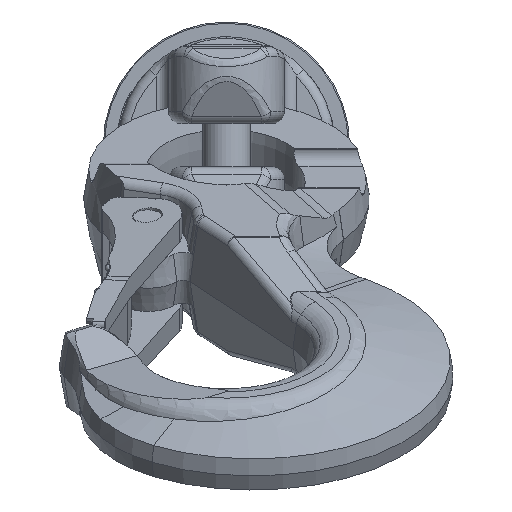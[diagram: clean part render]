
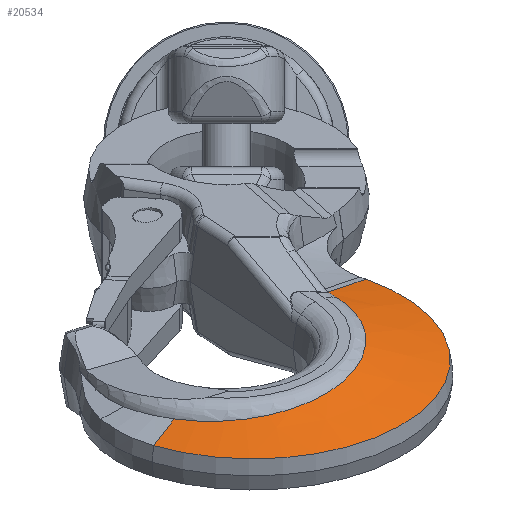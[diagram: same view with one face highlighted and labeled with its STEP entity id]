
A CAD part, left-side view. The second image highlights one B-rep face of the part: STEP entity #20534.
In plain terms, the highlighted conical face has half-angle 76 degrees and reference radius 63.001 mm.
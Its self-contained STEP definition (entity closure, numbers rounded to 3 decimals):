
#16895=CARTESIAN_POINT('',(-21.194,11.44,
55.898));
#16896=CARTESIAN_POINT('',(-19.086,11.541,
56.658));
#16897=CARTESIAN_POINT('',(-14.776,11.747,
57.937));
#16898=CARTESIAN_POINT('',(-8.146,12.072,
59.096));
#16899=CARTESIAN_POINT('',(-1.4,12.411,
59.48));
#16900=CARTESIAN_POINT('',(5.292,12.757,59.079));
#16901=CARTESIAN_POINT('',(11.852,13.107,57.916));
#16902=CARTESIAN_POINT('',(18.228,13.459,56.008));
#16903=CARTESIAN_POINT('',(24.366,13.811,53.36));
#16904=CARTESIAN_POINT('',(30.124,14.153,50.036));
#16905=CARTESIAN_POINT('',(35.486,14.485,46.049));
#16906=CARTESIAN_POINT('',(40.35,14.799,41.465));
#16907=CARTESIAN_POINT('',(44.677,15.087,36.326));
#16908=CARTESIAN_POINT('',(48.432,15.345,30.655));
#16909=CARTESIAN_POINT('',(51.566,15.563,24.473));
#16910=CARTESIAN_POINT('',(53.994,15.726,17.911));
#16911=CARTESIAN_POINT('',(55.684,15.824,11.043));
#16912=CARTESIAN_POINT('',(56.598,15.849,3.972));
#16913=CARTESIAN_POINT('',(56.715,15.796,
-3.13));
#16914=CARTESIAN_POINT('',(56.039,15.673,
-10.147));
#16915=CARTESIAN_POINT('',(54.588,15.489,
-16.953));
#16916=CARTESIAN_POINT('',(52.405,15.257,
-23.443));
#16917=CARTESIAN_POINT('',(49.523,14.987,
-29.574));
#16918=CARTESIAN_POINT('',(47.161,14.787,
-33.382));
#16919=CARTESIAN_POINT('',(45.879,14.684,
-35.205));
#16921=CARTESIAN_POINT('',(45.879,14.684,
-35.205));
#16922=CARTESIAN_POINT('',(45.354,14.642,
-35.952));
#16923=CARTESIAN_POINT('',(44.295,14.541,
-37.478));
#16924=CARTESIAN_POINT('',(42.685,14.34,
-39.856));
#16925=CARTESIAN_POINT('',(41.593,14.173,
-41.498));
#16926=CARTESIAN_POINT('',(41.041,14.081,
-42.332));
#16928=DIRECTION('',(0.557,-0.242,-0.795));
#16929=VECTOR('',#16928,28.082);
#16930=CARTESIAN_POINT('',(41.041,14.081,
-42.332));
#16931=LINE('',#16930,#16929);
#16932=DIRECTION('',(-0.487,-0.242,0.839));
#16933=VECTOR('',#16932,17.165);
#16934=CARTESIAN_POINT('',(-21.194,11.44,
55.898));
#16935=LINE('',#16934,#16933);
#16985=CARTESIAN_POINT('',(10.7,7.288,1.));
#16986=DIRECTION('',(0.,-1.,0.));
#16987=DIRECTION('',(0.574,0.,-0.819));
#16988=AXIS2_PLACEMENT_3D('',#16985,#16986,#16987);
#18949=CARTESIAN_POINT('',(56.67,7.288,
-64.652));
#18951=VERTEX_POINT('',#18949);
#18952=CARTESIAN_POINT('',(-29.561,7.288,
70.299));
#18953=VERTEX_POINT('',#18952);
#19001=CARTESIAN_POINT('',(-21.194,11.44,
55.898));
#19002=VERTEX_POINT('',#19001);
#19007=CARTESIAN_POINT('',(41.041,14.081,
-42.332));
#19008=VERTEX_POINT('',#19007);
#19058=VERTEX_POINT('',#16921);
#20519=CARTESIAN_POINT('',(10.7,11.563,1.));
#20520=DIRECTION('',(0.,-1.,0.));
#20521=DIRECTION('',(-0.574,0.,0.819));
#20522=AXIS2_PLACEMENT_3D('',#20519,#20520,#20521);
#20523=CONICAL_SURFACE('',#20522,63.,76.);
#20525=ORIENTED_EDGE('',*,*,#20524,.F.);
#20526=ORIENTED_EDGE('',*,*,#20506,.T.);
#20527=ORIENTED_EDGE('',*,*,#19980,.T.);
#20529=ORIENTED_EDGE('',*,*,#20528,.T.);
#20531=ORIENTED_EDGE('',*,*,#20530,.T.);
#20532=EDGE_LOOP('',(#20525,#20526,#20527,#20529,#20531));
#20533=FACE_OUTER_BOUND('',#20532,.F.);
#20534=ADVANCED_FACE('',(#20533),#20523,.T.);
#16920=B_SPLINE_CURVE_WITH_KNOTS('',3,(#16895,#16896,#16897,#16898,#16899,
#16900,#16901,#16902,#16903,#16904,#16905,#16906,#16907,#16908,#16909,#16910,
#16911,#16912,#16913,#16914,#16915,#16916,#16917,#16918,#16919),.UNSPECIFIED.,
.F.,.F.,(4,1,1,1,1,1,1,1,1,1,1,1,1,1,1,1,1,1,1,1,1,1,4),(0.,0.045,
0.091,0.136,0.182,0.227,
0.273,0.318,0.364,0.409,
0.455,0.5,0.545,0.591,0.636,
0.682,0.727,0.773,0.818,
0.864,0.909,0.955,1.),.UNSPECIFIED.);
#16927=B_SPLINE_CURVE_WITH_KNOTS('',3,(#16921,#16922,#16923,#16924,#16925,
#16926),.UNSPECIFIED.,.F.,.F.,(4,1,1,4),(0.,0.333,
0.667,1.),.UNSPECIFIED.);
#16989=CIRCLE('',#16988,80.146);
#19980=EDGE_CURVE('',#19058,#19008,#16927,.T.);
#20506=EDGE_CURVE('',#19002,#19058,#16920,.T.);
#20524=EDGE_CURVE('',#19002,#18953,#16935,.T.);
#20528=EDGE_CURVE('',#19008,#18951,#16931,.T.);
#20530=EDGE_CURVE('',#18951,#18953,#16989,.T.);
